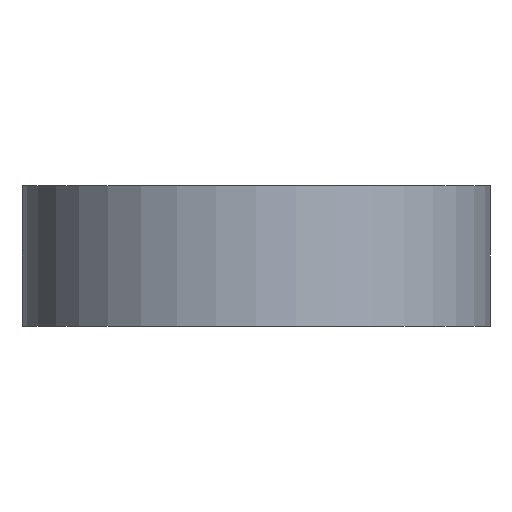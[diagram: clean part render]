
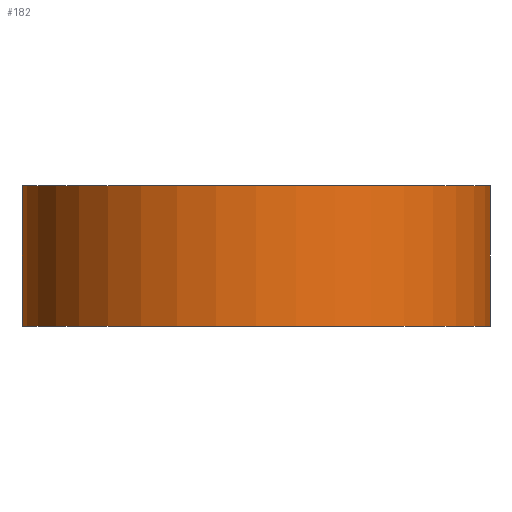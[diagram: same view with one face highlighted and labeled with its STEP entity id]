
A CAD part, left-side view. The second image highlights one B-rep face of the part: STEP entity #182.
In plain terms, the highlighted cylindrical face has radius 5 mm (diameter 10 mm), a partial arc.
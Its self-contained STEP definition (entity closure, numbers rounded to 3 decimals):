
#25=CYLINDRICAL_SURFACE('',#223,5.);
#33=FACE_OUTER_BOUND('',#43,.T.);
#43=EDGE_LOOP('',(#148,#149,#150,#151));
#57=LINE('',#311,#69);
#60=LINE('',#322,#72);
#69=VECTOR('',#259,10.);
#72=VECTOR('',#270,10.);
#82=CIRCLE('',#224,5.);
#83=CIRCLE('',#225,5.);
#90=VERTEX_POINT('',#304);
#93=VERTEX_POINT('',#309);
#96=VERTEX_POINT('',#319);
#97=VERTEX_POINT('',#321);
#111=EDGE_CURVE('',#93,#90,#57,.T.);
#116=EDGE_CURVE('',#97,#96,#60,.T.);
#118=EDGE_CURVE('',#96,#90,#82,.T.);
#119=EDGE_CURVE('',#93,#97,#83,.T.);
#148=ORIENTED_EDGE('',*,*,#118,.T.);
#149=ORIENTED_EDGE('',*,*,#111,.F.);
#150=ORIENTED_EDGE('',*,*,#119,.T.);
#151=ORIENTED_EDGE('',*,*,#116,.T.);
#182=ADVANCED_FACE('',(#33),#25,.T.);
#223=AXIS2_PLACEMENT_3D('',#324,#272,#273);
#224=AXIS2_PLACEMENT_3D('',#325,#274,#275);
#225=AXIS2_PLACEMENT_3D('',#326,#276,#277);
#259=DIRECTION('',(0.,0.,1.));
#270=DIRECTION('',(0.,0.,1.));
#272=DIRECTION('center_axis',(0.,0.,1.));
#273=DIRECTION('ref_axis',(0.,1.,0.));
#274=DIRECTION('center_axis',(0.,0.,-1.));
#275=DIRECTION('ref_axis',(0.,1.,0.));
#276=DIRECTION('center_axis',(0.,0.,1.));
#277=DIRECTION('ref_axis',(0.,1.,0.));
#304=CARTESIAN_POINT('',(-53.206,5.179,3.));
#309=CARTESIAN_POINT('',(-53.206,5.179,0.));
#311=CARTESIAN_POINT('',(-53.206,5.179,0.));
#319=CARTESIAN_POINT('',(-53.206,-4.816,3.));
#321=CARTESIAN_POINT('',(-53.206,-4.816,0.));
#322=CARTESIAN_POINT('',(-53.206,-4.816,0.));
#324=CARTESIAN_POINT('Origin',(-53.05,0.181,0.));
#325=CARTESIAN_POINT('Origin',(-53.05,0.181,3.));
#326=CARTESIAN_POINT('Origin',(-53.05,0.181,0.));
